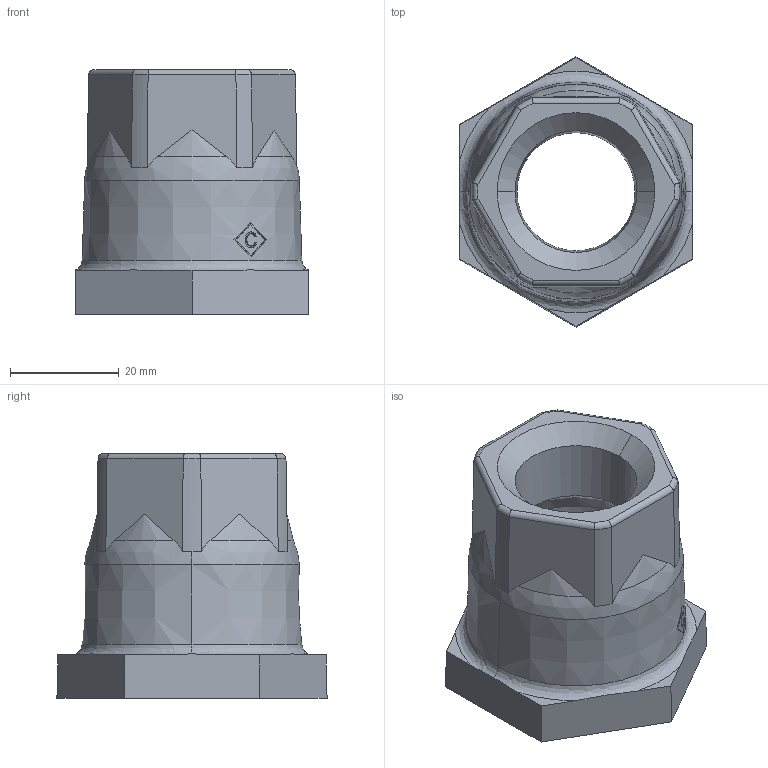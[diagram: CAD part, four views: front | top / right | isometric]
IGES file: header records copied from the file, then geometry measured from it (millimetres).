
Global section: file name: No Iges File Name specified; native system: AutoDesk Inventor R12.0; preprocessor: AutoDesk Inventor Iges Exporter R12.0; date: 20090918.142647; units: millimetre
Bounding box: 43 x 49.65 x 45 mm (x, y, z)
Volume: 30051.8 mm3; surface area: 10965.5 mm2
Topology: 1 solids, 1 shells, 81 faces, 210 edges, 134 vertices
Faces by surface type: plane 30, bspline 20, cone 11, revolution 8, torus 6, cylinder 6
